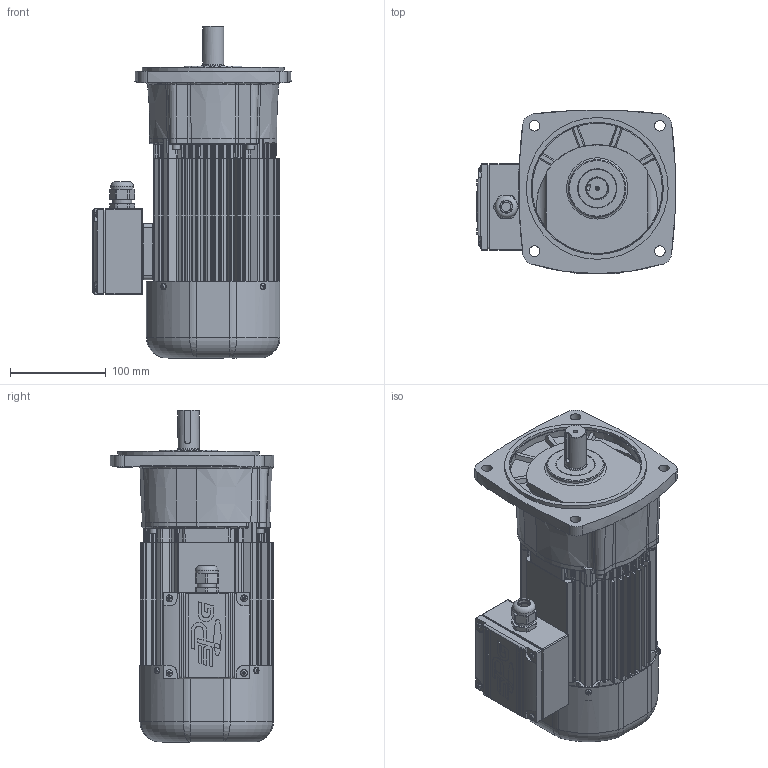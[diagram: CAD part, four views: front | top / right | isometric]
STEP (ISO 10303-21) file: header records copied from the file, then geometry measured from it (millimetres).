
FILE_DESCRIPTION(/* description */ (''),/* implementation_level */ '2;1');
FILE_NAME(/* name */ 'Z:\동력 3D 파일\PAF22_0.4kW_Brake_3D.stp',/* time_stamp */ '2021-11-08T15:16:37+09:00',/* author */ ('jaebok'),/* organization */ (''),/* preprocessor_version */ 'ST-DEVELOPER v18.1',/* originating_system */ 'Autodesk Inventor 2022',/* authorisation */ '');
FILE_SCHEMA (('AUTOMOTIVE_DESIGN { 1 0 10303 214 3 1 1 }'));
Products named in the file (1): 부품8
Bounding box: 207.74 x 170.74 x 346.5 mm (x, y, z)
Volume: 1690522.5 mm3; surface area: 594090.1 mm2
Topology: 3 solids, 26 shells, 3062 faces, 7751 edges, 4689 vertices
Faces by surface type: plane 1032, cylinder 908, bspline 646, torus 239, cone 165, sphere 72
Full cylindrical faces by diameter (mm): 1.5 x2, 2 x5, 3 x8, 3.242 x5, 3.25 x1, 3.3 x4, 3.6 x4, 3.8 x3, 4 x25, 4.2 x12, 4.917 x4, 5 x25, 5.5 x4, 5.8 x2, 5.9 x3, 6 x14, 6.4 x1, 6.5 x6, 7 x12, 7.9 x6, 8 x7, 8.5 x5, 8.7 x1, 10 x1, 11 x4, 12.5 x1, 14 x1, 15 x1, 15.5 x1, 18 x1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
Entity records: 119449 total; most frequent: CARTESIAN_POINT 46671, ORIENTED_EDGE 15170, DIRECTION 13946, EDGE_CURVE 7585, AXIS2_PLACEMENT_3D 5618, VERTEX_POINT 4685, EDGE_LOOP 3329, CIRCLE 3088
